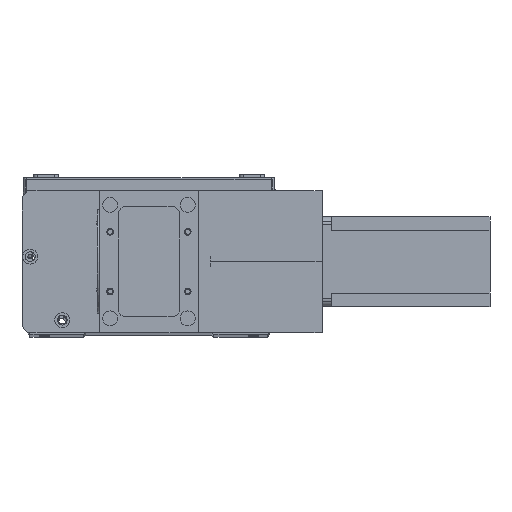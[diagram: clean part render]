
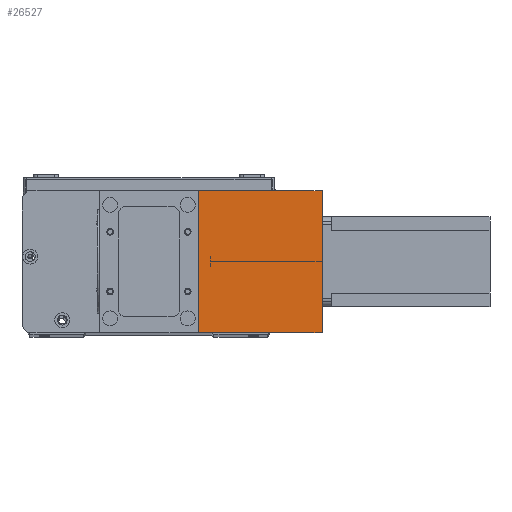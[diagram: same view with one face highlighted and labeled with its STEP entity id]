
A CAD part, top view. The second image highlights one B-rep face of the part: STEP entity #26527.
In plain terms, the highlighted planar face has unit normal (0, 0, 1) as drawn and (1, 0, 0) by its records, which use the part's own axes.
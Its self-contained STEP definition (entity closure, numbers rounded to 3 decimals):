
#951 = CARTESIAN_POINT ( 'NONE',  ( 82., 0., 83. ) ) ;
#1238 = VECTOR ( 'NONE', #22853, 1000. ) ;
#2323 = LINE ( 'NONE', #17251, #7653 ) ;
#3516 = ORIENTED_EDGE ( 'NONE', *, *, #23884, .F. ) ;
#3765 = LINE ( 'NONE', #4431, #26336 ) ;
#4431 = CARTESIAN_POINT ( 'NONE',  ( 82., 0., 83. ) ) ;
#6803 = ORIENTED_EDGE ( 'NONE', *, *, #24211, .F. ) ;
#7446 = VERTEX_POINT ( 'NONE', #13817 ) ;
#7653 = VECTOR ( 'NONE', #21655, 1000. ) ;
#8285 = AXIS2_PLACEMENT_3D ( 'NONE', #24026, #11025, #26178 ) ;
#8605 = CARTESIAN_POINT ( 'NONE',  ( 82., 95., 0. ) ) ;
#8689 = ORIENTED_EDGE ( 'NONE', *, *, #23495, .T. ) ;
#8789 = PLANE ( 'NONE',  #8285 ) ;
#9860 = EDGE_LOOP ( 'NONE', ( #8689, #3516, #6803, #10377 ) ) ;
#10377 = ORIENTED_EDGE ( 'NONE', *, *, #23173, .T. ) ;
#11025 = DIRECTION ( 'NONE',  ( -1., 0., 0. ) ) ;
#11136 = DIRECTION ( 'NONE',  ( 0., 0., -1. ) ) ;
#11468 = LINE ( 'NONE', #27289, #23022 ) ;
#12309 = VERTEX_POINT ( 'NONE', #16285 ) ;
#13043 = FACE_OUTER_BOUND ( 'NONE', #9860, .T. ) ;
#13141 = CARTESIAN_POINT ( 'NONE',  ( 82., 0., 0. ) ) ;
#13817 = CARTESIAN_POINT ( 'NONE',  ( 82., 95., 83. ) ) ;
#14348 = DIRECTION ( 'NONE',  ( 0., 1., 0. ) ) ;
#16285 = CARTESIAN_POINT ( 'NONE',  ( 82., 0., 83. ) ) ;
#17251 = CARTESIAN_POINT ( 'NONE',  ( 82., 95., 83. ) ) ;
#18889 = LINE ( 'NONE', #951, #1238 ) ;
#21655 = DIRECTION ( 'NONE',  ( 0., 0., -1. ) ) ;
#22853 = DIRECTION ( 'NONE',  ( 0., 1., 0. ) ) ;
#23022 = VECTOR ( 'NONE', #14348, 1000. ) ;
#23108 = VERTEX_POINT ( 'NONE', #8605 ) ;
#23168 = VERTEX_POINT ( 'NONE', #13141 ) ;
#23173 = EDGE_CURVE ( 'NONE', #12309, #23168, #3765, .T. ) ;
#23495 = EDGE_CURVE ( 'NONE', #23168, #23108, #11468, .T. ) ;
#23884 = EDGE_CURVE ( 'NONE', #7446, #23108, #2323, .T. ) ;
#24026 = CARTESIAN_POINT ( 'NONE',  ( 82., 0., 83. ) ) ;
#24211 = EDGE_CURVE ( 'NONE', #12309, #7446, #18889, .T. ) ;
#26178 = DIRECTION ( 'NONE',  ( 0., 0., 1. ) ) ;
#26336 = VECTOR ( 'NONE', #11136, 1000. ) ;
#26527 = ADVANCED_FACE ( 'NONE', ( #13043 ), #8789, .F. ) ;
#27289 = CARTESIAN_POINT ( 'NONE',  ( 82., 0., 0. ) ) ;
